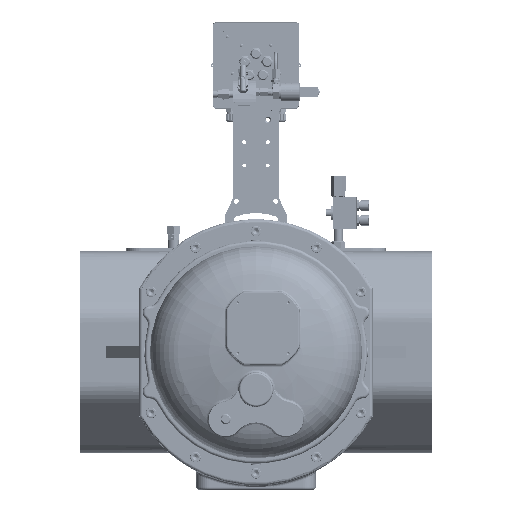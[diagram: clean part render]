
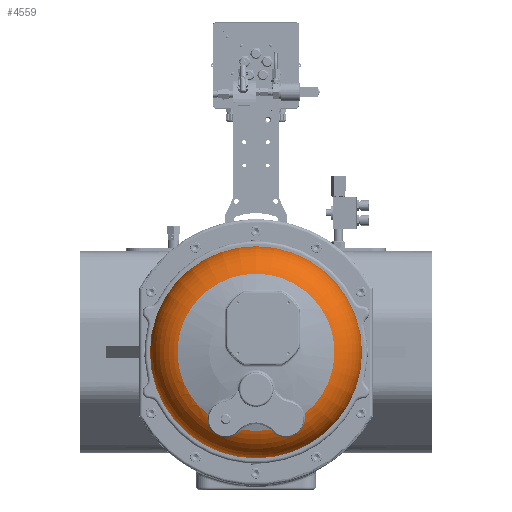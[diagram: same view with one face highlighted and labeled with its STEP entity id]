
A CAD part, left-side view. The second image highlights one B-rep face of the part: STEP entity #4559.
In plain terms, the highlighted toroidal (fillet/blend) face has major radius 113.213 mm and minor radius 67.949 mm.
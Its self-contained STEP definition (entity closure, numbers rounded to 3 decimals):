
#4559=ADVANCED_FACE('',(#298163,#298165),#298167,.T.);
#298163=FACE_OUTER_BOUND('',#298164,.T.);
#298164=EDGE_LOOP('',(#575762));
#298165=FACE_BOUND('',#298166,.T.);
#298166=EDGE_LOOP('',(#575763,#575764,#575765,#575766,#575767,#575768,#575769));
#298167=TOROIDAL_SURFACE('',#298168,113.213,67.949);
#298168=AXIS2_PLACEMENT_3D('',#298169,#298170,#298171);
#298169=CARTESIAN_POINT('',(-587.309,0.,0.));
#298170=DIRECTION('',(-1.,0.,0.));
#298171=DIRECTION('',(0.,0.,1.));
#575762=ORIENTED_EDGE('',*,*,#789763,.F.);
#575763=ORIENTED_EDGE('',*,*,#789764,.T.);
#575764=ORIENTED_EDGE('',*,*,#789730,.F.);
#575765=ORIENTED_EDGE('',*,*,#789729,.F.);
#575766=ORIENTED_EDGE('',*,*,#789765,.T.);
#575767=ORIENTED_EDGE('',*,*,#789766,.T.);
#575768=ORIENTED_EDGE('',*,*,#789767,.F.);
#575769=ORIENTED_EDGE('',*,*,#789768,.T.);
#789729=EDGE_CURVE('',#882112,#882114,#882115,.T.);
#789730=EDGE_CURVE('',#882114,#882104,#882116,.T.);
#789763=EDGE_CURVE('',#882172,#882172,#882173,.F.);
#789764=EDGE_CURVE('',#882174,#882104,#882175,.F.);
#789765=EDGE_CURVE('',#882112,#882176,#882177,.F.);
#789766=EDGE_CURVE('',#882176,#882178,#882179,.F.);
#789767=EDGE_CURVE('',#882180,#882178,#882181,.T.);
#789768=EDGE_CURVE('',#882180,#882174,#882182,.T.);
#882104=VERTEX_POINT('',#1048856);
#882112=VERTEX_POINT('',#1048914);
#882114=VERTEX_POINT('',#1048931);
#882115=CIRCLE('',#1048932,134.);
#882116=CIRCLE('',#1048936,134.);
#882172=VERTEX_POINT('',#1049402);
#882173=CIRCLE('',#1049403,181.);
#882174=VERTEX_POINT('',#1049407);
#882175=B_SPLINE_CURVE_WITH_KNOTS('',3,
(#1049408,#1049409,#1049410,#1049411,#1049412,#1049413,#1049414,#1049415,#1049416,
#1049417,#1049418,#1049419,#1049420,#1049421,#1049422,#1049423,#1049424,#1049425,
#1049426,#1049427,#1049428,#1049429,#1049430,#1049431,#1049432,#1049433,#1049434),
.UNSPECIFIED.,.F.,.F.,
(4,1,1,1,1,1,1,1,1,1,1,1,1,1,1,1,1,1,1,1,1,1,1,1,4),
(0.,0.067,0.125,0.179,0.233,0.284,
0.328,0.368,0.407,0.443,0.478,
0.51,0.539,0.564,0.593,0.624,
0.66,0.698,0.743,0.79,0.842,
0.89,0.934,0.969,1.),
.UNSPECIFIED.);
#882176=VERTEX_POINT('',#1049435);
#882177=B_SPLINE_CURVE_WITH_KNOTS('',3,
(#1049436,#1049437,#1049438,#1049439,#1049440,#1049441,#1049442,#1049443,#1049444,
#1049445,#1049446,#1049447,#1049448,#1049449,#1049450,#1049451,#1049452,#1049453,
#1049454,#1049455,#1049456,#1049457,#1049458,#1049459,#1049460,#1049461),
.UNSPECIFIED.,.F.,.F.,
(4,1,1,1,1,1,1,1,1,1,1,1,1,1,1,1,1,1,1,1,1,1,1,4),
(0.,0.074,0.138,0.188,0.237,0.28,
0.321,0.358,0.395,0.428,0.457,
0.481,0.506,0.533,0.565,0.601,
0.638,0.68,0.724,0.774,0.824,
0.875,0.934,1.),
.UNSPECIFIED.);
#882178=VERTEX_POINT('',#1049462);
#882179=B_SPLINE_CURVE_WITH_KNOTS('',3,
(#1049463,#1049464,#1049465,#1049466,#1049467,#1049468),
.UNSPECIFIED.,.F.,.F.,
(4,1,1,4),
(0.,0.333,0.667,1.),
.UNSPECIFIED.);
#882180=VERTEX_POINT('',#1049469);
#882181=CIRCLE('',#1049470,134.);
#882182=B_SPLINE_CURVE_WITH_KNOTS('',3,
(#1049474,#1049475,#1049476,#1049477,#1049478,#1049479,#1049480),
.UNSPECIFIED.,.F.,.F.,
(4,1,1,1,4),
(0.,0.333,0.667,0.889,1.),
.UNSPECIFIED.);
#1048856=CARTESIAN_POINT('',(-652.,82.998,-105.202));
#1048914=CARTESIAN_POINT('',(-652.,-82.998,-105.202));
#1048931=CARTESIAN_POINT('',(-652.,0.,134.));
#1048932=AXIS2_PLACEMENT_3D('',#1048933,#1048934,#1048935);
#1048933=CARTESIAN_POINT('',(-652.,0.,0.));
#1048934=DIRECTION('',(-1.,0.,0.));
#1048935=DIRECTION('',(0.,-0.619,-0.785));
#1048936=AXIS2_PLACEMENT_3D('',#1048937,#1048938,#1048939);
#1048937=CARTESIAN_POINT('',(-652.,0.,0.));
#1048938=DIRECTION('',(-1.,0.,0.));
#1048939=DIRECTION('',(0.,0.,1.));
#1049402=CARTESIAN_POINT('',(-592.,0.,181.));
#1049403=AXIS2_PLACEMENT_3D('',#1049404,#1049405,#1049406);
#1049404=CARTESIAN_POINT('',(-592.,0.,0.));
#1049405=DIRECTION('',(-1.,0.,0.));
#1049406=DIRECTION('',(0.,0.,1.));
#1049407=CARTESIAN_POINT('',(-650.921,26.7,-134.475));
#1049408=CARTESIAN_POINT('',(-652.,82.998,-105.202));
#1049409=CARTESIAN_POINT('',(-651.452,83.417,-107.041));
#1049410=CARTESIAN_POINT('',(-650.342,83.861,-110.527));
#1049411=CARTESIAN_POINT('',(-648.615,83.676,-115.479));
#1049412=CARTESIAN_POINT('',(-646.969,82.841,-119.986));
#1049413=CARTESIAN_POINT('',(-645.415,81.453,-124.158));
#1049414=CARTESIAN_POINT('',(-644.022,79.604,-127.931));
#1049415=CARTESIAN_POINT('',(-642.878,77.496,-131.157));
#1049416=CARTESIAN_POINT('',(-641.974,75.242,-133.897));
#1049417=CARTESIAN_POINT('',(-641.28,72.863,-136.25));
#1049418=CARTESIAN_POINT('',(-640.778,70.344,-138.292));
#1049419=CARTESIAN_POINT('',(-640.473,67.796,-139.986));
#1049420=CARTESIAN_POINT('',(-640.344,65.294,-141.346));
#1049421=CARTESIAN_POINT('',(-640.358,62.939,-142.39));
#1049422=CARTESIAN_POINT('',(-640.484,60.614,-143.224));
#1049423=CARTESIAN_POINT('',(-640.725,58.171,-143.905));
#1049424=CARTESIAN_POINT('',(-641.126,55.399,-144.448));
#1049425=CARTESIAN_POINT('',(-641.716,52.317,-144.771));
#1049426=CARTESIAN_POINT('',(-642.537,48.875,-144.793));
#1049427=CARTESIAN_POINT('',(-643.589,45.179,-144.418));
#1049428=CARTESIAN_POINT('',(-644.882,41.238,-143.54));
#1049429=CARTESIAN_POINT('',(-646.302,37.387,-142.151));
#1049430=CARTESIAN_POINT('',(-647.726,33.854,-140.338));
#1049431=CARTESIAN_POINT('',(-648.98,30.931,-138.374));
#1049432=CARTESIAN_POINT('',(-650.038,28.592,-136.407));
#1049433=CARTESIAN_POINT('',(-650.643,27.275,-135.114));
#1049434=CARTESIAN_POINT('',(-650.921,26.7,-134.475));
#1049435=CARTESIAN_POINT('',(-650.921,-26.7,-134.475));
#1049436=CARTESIAN_POINT('',(-650.921,-26.7,-134.475));
#1049437=CARTESIAN_POINT('',(-650.258,-28.073,-136.001));
#1049438=CARTESIAN_POINT('',(-648.953,-30.963,-138.525));
#1049439=CARTESIAN_POINT('',(-647.08,-35.399,-141.242));
#1049440=CARTESIAN_POINT('',(-645.477,-39.579,-143.008));
#1049441=CARTESIAN_POINT('',(-644.15,-43.41,-144.081));
#1049442=CARTESIAN_POINT('',(-643.015,-47.13,-144.663));
#1049443=CARTESIAN_POINT('',(-642.104,-50.606,-144.826));
#1049444=CARTESIAN_POINT('',(-641.384,-53.946,-144.64));
#1049445=CARTESIAN_POINT('',(-640.866,-57.058,-144.162));
#1049446=CARTESIAN_POINT('',(-640.539,-59.895,-143.453));
#1049447=CARTESIAN_POINT('',(-640.38,-62.349,-142.619));
#1049448=CARTESIAN_POINT('',(-640.341,-64.505,-141.709));
#1049449=CARTESIAN_POINT('',(-640.398,-66.558,-140.678));
#1049450=CARTESIAN_POINT('',(-640.567,-68.702,-139.409));
#1049451=CARTESIAN_POINT('',(-640.893,-71.004,-137.788));
#1049452=CARTESIAN_POINT('',(-641.407,-73.355,-135.796));
#1049453=CARTESIAN_POINT('',(-642.131,-75.686,-133.401));
#1049454=CARTESIAN_POINT('',(-643.065,-77.885,-130.619));
#1049455=CARTESIAN_POINT('',(-644.23,-79.914,-127.364));
#1049456=CARTESIAN_POINT('',(-645.581,-81.619,-123.714));
#1049457=CARTESIAN_POINT('',(-647.066,-82.897,-119.721));
#1049458=CARTESIAN_POINT('',(-648.66,-83.687,-115.352));
#1049459=CARTESIAN_POINT('',(-650.361,-83.856,-110.467));
#1049460=CARTESIAN_POINT('',(-651.462,-83.41,-107.01));
#1049461=CARTESIAN_POINT('',(-652.,-82.998,-105.202));
#1049462=CARTESIAN_POINT('',(-652.,-23.979,-131.837));
#1049463=CARTESIAN_POINT('',(-652.,-23.979,-131.837));
#1049464=CARTESIAN_POINT('',(-651.895,-24.304,-132.112));
#1049465=CARTESIAN_POINT('',(-651.671,-24.929,-132.685));
#1049466=CARTESIAN_POINT('',(-651.312,-25.84,-133.563));
#1049467=CARTESIAN_POINT('',(-651.054,-26.417,-134.169));
#1049468=CARTESIAN_POINT('',(-650.921,-26.7,-134.475));
#1049469=CARTESIAN_POINT('',(-652.,23.979,-131.837));
#1049470=AXIS2_PLACEMENT_3D('',#1049471,#1049472,#1049473);
#1049471=CARTESIAN_POINT('',(-652.,0.,0.));
#1049472=DIRECTION('',(-1.,0.,0.));
#1049473=DIRECTION('',(0.,0.179,-0.984));
#1049474=CARTESIAN_POINT('',(-652.,23.979,-131.837));
#1049475=CARTESIAN_POINT('',(-651.893,24.298,-132.118));
#1049476=CARTESIAN_POINT('',(-651.672,24.932,-132.682));
#1049477=CARTESIAN_POINT('',(-651.352,25.738,-133.466));
#1049478=CARTESIAN_POINT('',(-651.097,26.321,-134.068));
#1049479=CARTESIAN_POINT('',(-650.965,26.606,-134.373));
#1049480=CARTESIAN_POINT('',(-650.921,26.7,-134.475));
